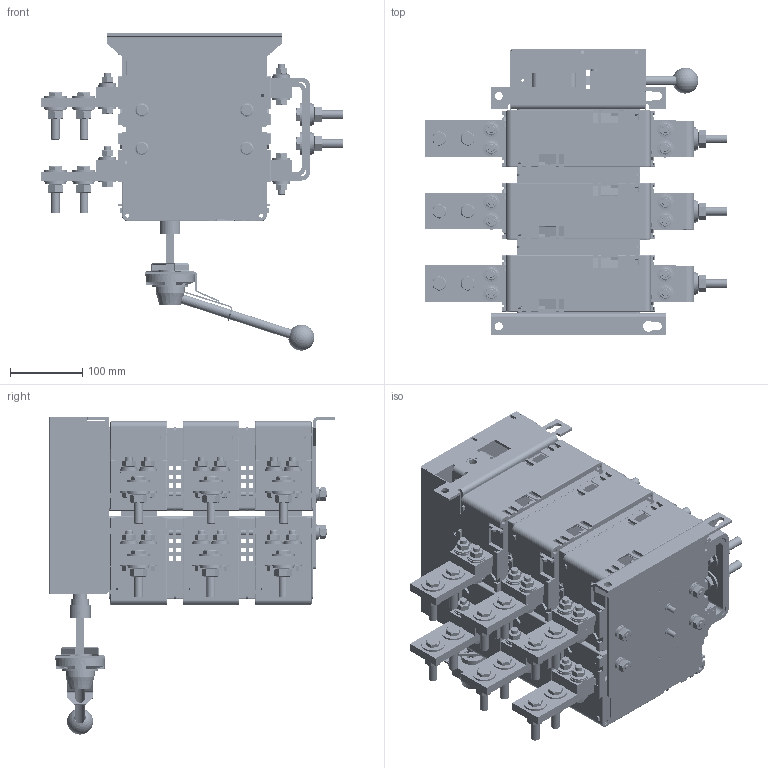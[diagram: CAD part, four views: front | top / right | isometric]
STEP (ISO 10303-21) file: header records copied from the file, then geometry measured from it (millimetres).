
FILE_DESCRIPTION (( 'STEP AP203' ), '1' );
FILE_NAME ('OptiSwitch DI-C5-1600-3P.STEP', '2019-05-16T07:38:09', ( '' ), ( '' ), 'SwSTEP 2.0', 'SolidWorks 2018', '' );
FILE_SCHEMA (( 'CONFIG_CONTROL_DESIGN' ));
Products named in the file (1): OptiSwitch DI-C5-1600-3P
Bounding box: 418.1 x 395.52 x 438.63 mm (x, y, z)
Volume: 7119595.7 mm3; surface area: 4003374.1 mm2
Topology: 345 solids, 345 shells, 14183 faces, 37177 edges, 23764 vertices
Faces by surface type: plane 7955, cylinder 4272, cone 1292, bspline 470, torus 144, sphere 50
Entity records: 473372 total; most frequent: CARTESIAN_POINT 121237, ORIENTED_EDGE 74248, DIRECTION 71469, EDGE_CURVE 37124, VECTOR 23907, LINE 23907, AXIS2_PLACEMENT_3D 23781, VERTEX_POINT 23761
